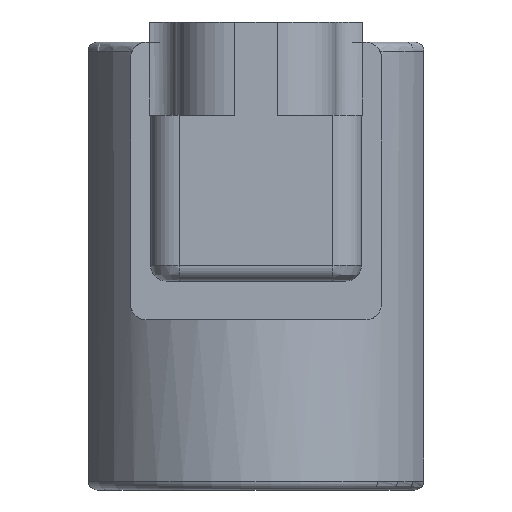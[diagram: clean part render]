
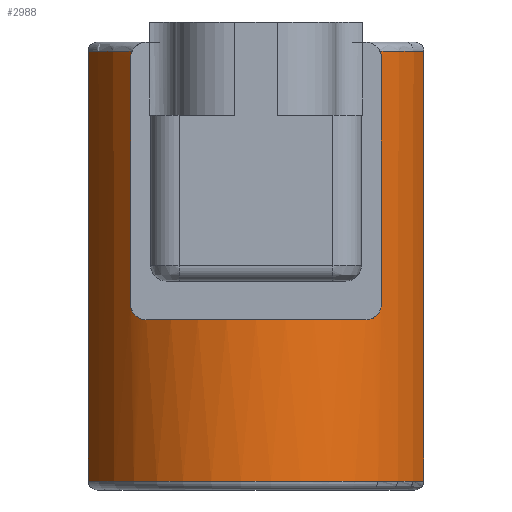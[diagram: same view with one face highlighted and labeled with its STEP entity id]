
A CAD part, left-side view. The second image highlights one B-rep face of the part: STEP entity #2988.
In plain terms, the highlighted cylindrical face has radius 19.5 mm (diameter 39 mm), a partial arc.
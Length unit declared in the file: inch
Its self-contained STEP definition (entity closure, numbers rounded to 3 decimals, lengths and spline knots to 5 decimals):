
#2466=CARTESIAN_POINT('',(6.02444,4.89767,-1.69165));
#2467=VERTEX_POINT('',#2466);
#2479=CARTESIAN_POINT('',(6.03121,4.90431,-1.72118));
#2480=VERTEX_POINT('',#2479);
#2481=CARTESIAN_POINT('',(6.03121,4.90431,-1.72118));
#2482=CARTESIAN_POINT('',(6.03121,4.90431,-1.71685));
#2483=CARTESIAN_POINT('',(6.03078,4.9039,-1.71246));
#2484=CARTESIAN_POINT('',(6.02908,4.90225,-1.70387));
#2485=CARTESIAN_POINT('',(6.02782,4.90101,-1.69968));
#2486=CARTESIAN_POINT('',(6.02567,4.89889,-1.69434));
#2487=CARTESIAN_POINT('',(6.02507,4.8983,-1.69298));
#2488=CARTESIAN_POINT('',(6.02444,4.89767,-1.69165));
#2489=B_SPLINE_CURVE_WITH_KNOTS('',3,(#2481,#2482,#2483,#2484,#2485,#2486,#2487,#2488),.UNSPECIFIED.,.F.,.U.,(4,2,2,4),(0.0,0.33006,0.66013,0.77574),.UNSPECIFIED.);
#2490=EDGE_CURVE('',#2480,#2467,#2489,.T.);
#2533=CARTESIAN_POINT('',(6.35474,5.09132,-1.69165));
#2534=VERTEX_POINT('',#2533);
#2552=CARTESIAN_POINT('',(6.56561,4.35313,-1.69165));
#2553=DIRECTION('',(0.0,0.0,1.0));
#2554=DIRECTION('',(-1.0,0.0,0.0));
#2555=AXIS2_PLACEMENT_3D('',#2552,#2553,#2554);
#2556=CIRCLE('',#2555,0.76772);
#2557=EDGE_CURVE('',#2534,#2467,#2556,.T.);
#2586=CARTESIAN_POINT('',(6.03121,3.80195,-1.72118));
#2587=VERTEX_POINT('',#2586);
#2594=CARTESIAN_POINT('',(6.02444,3.8086,-1.69165));
#2595=VERTEX_POINT('',#2594);
#2596=CARTESIAN_POINT('',(6.02444,3.8086,-1.69165));
#2597=CARTESIAN_POINT('',(6.02507,3.80797,-1.69298));
#2598=CARTESIAN_POINT('',(6.02567,3.80738,-1.69434));
#2599=CARTESIAN_POINT('',(6.02782,3.80526,-1.69968));
#2600=CARTESIAN_POINT('',(6.02908,3.80402,-1.70387));
#2601=CARTESIAN_POINT('',(6.03078,3.80237,-1.71246));
#2602=CARTESIAN_POINT('',(6.03121,3.80195,-1.71685));
#2603=CARTESIAN_POINT('',(6.03121,3.80195,-1.72118));
#2604=B_SPLINE_CURVE_WITH_KNOTS('',3,(#2596,#2597,#2598,#2599,#2600,#2601,#2602,#2603),.UNSPECIFIED.,.F.,.U.,(4,2,2,4),(-0.77574,-0.66013,-0.33006,0.0),.UNSPECIFIED.);
#2605=EDGE_CURVE('',#2595,#2587,#2604,.T.);
#2814=CARTESIAN_POINT('',(6.03121,3.80195,-2.80386));
#2815=VERTEX_POINT('',#2814);
#2816=CARTESIAN_POINT('',(6.03121,3.80195,-1.72118));
#2817=DIRECTION('',(0.0,0.0,-1.0));
#2818=VECTOR('',#2817,1.08268);
#2819=LINE('',#2816,#2818);
#2820=EDGE_CURVE('',#2587,#2815,#2819,.T.);
#2838=CARTESIAN_POINT('',(5.96829,3.87085,-2.87276));
#2839=VERTEX_POINT('',#2838);
#2840=CARTESIAN_POINT('',(6.03121,3.80195,-2.80386));
#2841=CARTESIAN_POINT('',(6.03121,3.80195,-2.80819));
#2842=CARTESIAN_POINT('',(6.03078,3.80237,-2.81258));
#2843=CARTESIAN_POINT('',(6.02908,3.80402,-2.82117));
#2844=CARTESIAN_POINT('',(6.02782,3.80526,-2.82536));
#2845=CARTESIAN_POINT('',(6.02304,3.80997,-2.83723));
#2846=CARTESIAN_POINT('',(6.0185,3.81452,-2.84419));
#2847=CARTESIAN_POINT('',(6.00746,3.82593,-2.85703));
#2848=CARTESIAN_POINT('',(5.99976,3.83415,-2.86298));
#2849=CARTESIAN_POINT('',(5.98387,3.85203,-2.87085));
#2850=CARTESIAN_POINT('',(5.97568,3.8617,-2.87276));
#2851=CARTESIAN_POINT('',(5.96829,3.87085,-2.87276));
#2852=B_SPLINE_CURVE_WITH_KNOTS('',3,(#2840,#2841,#2842,#2843,#2844,#2845,#2846,#2847,#2848,#2849,#2850,#2851),.UNSPECIFIED.,.F.,.U.,(4,2,2,2,2,4),(0.0,0.33006,0.66013,1.32026,2.21635,3.11244),.UNSPECIFIED.);
#2853=EDGE_CURVE('',#2815,#2839,#2852,.T.);
#2871=CARTESIAN_POINT('',(5.96829,4.83542,-2.87276));
#2872=VERTEX_POINT('',#2871);
#2873=CARTESIAN_POINT('',(6.56561,4.35313,-2.87276));
#2874=DIRECTION('',(0.0,0.0,-1.0));
#2875=DIRECTION('',(-1.0,0.0,0.0));
#2876=AXIS2_PLACEMENT_3D('',#2873,#2874,#2875);
#2877=CIRCLE('',#2876,0.76772);
#2878=EDGE_CURVE('',#2839,#2872,#2877,.T.);
#2896=CARTESIAN_POINT('',(6.03121,4.90431,-2.80386));
#2897=VERTEX_POINT('',#2896);
#2898=CARTESIAN_POINT('',(5.96829,4.83542,-2.87276));
#2899=CARTESIAN_POINT('',(5.97568,4.84457,-2.87276));
#2900=CARTESIAN_POINT('',(5.98387,4.85424,-2.87085));
#2901=CARTESIAN_POINT('',(5.99976,4.87212,-2.86298));
#2902=CARTESIAN_POINT('',(6.00746,4.88033,-2.85703));
#2903=CARTESIAN_POINT('',(6.0185,4.89175,-2.84419));
#2904=CARTESIAN_POINT('',(6.02304,4.89629,-2.83723));
#2905=CARTESIAN_POINT('',(6.02782,4.90101,-2.82536));
#2906=CARTESIAN_POINT('',(6.02908,4.90225,-2.82117));
#2907=CARTESIAN_POINT('',(6.03078,4.9039,-2.81258));
#2908=CARTESIAN_POINT('',(6.03121,4.90431,-2.80819));
#2909=CARTESIAN_POINT('',(6.03121,4.90431,-2.80386));
#2910=B_SPLINE_CURVE_WITH_KNOTS('',3,(#2898,#2899,#2900,#2901,#2902,#2903,#2904,#2905,#2906,#2907,#2908,#2909),.UNSPECIFIED.,.F.,.U.,(4,2,2,2,2,4),(-3.11244,-2.21635,-1.32026,-0.66013,-0.33006,0.0),.UNSPECIFIED.);
#2911=EDGE_CURVE('',#2872,#2897,#2910,.T.);
#2929=CARTESIAN_POINT('',(6.03121,4.90431,-2.80386));
#2930=DIRECTION('',(0.0,0.0,1.0));
#2931=VECTOR('',#2930,1.08268);
#2932=LINE('',#2929,#2931);
#2933=EDGE_CURVE('',#2897,#2480,#2932,.T.);
#2941=CARTESIAN_POINT('',(6.56561,4.35313,-1.65228));
#2942=DIRECTION('',(0.0,0.0,-1.0));
#2943=DIRECTION('',(-1.0,0.0,0.0));
#2944=AXIS2_PLACEMENT_3D('',#2941,#2942,#2943);
#2945=CYLINDRICAL_SURFACE('',#2944,0.76772);
#2946=ORIENTED_EDGE('',*,*,#2605,.T.);
#2947=ORIENTED_EDGE('',*,*,#2820,.T.);
#2948=ORIENTED_EDGE('',*,*,#2853,.T.);
#2949=ORIENTED_EDGE('',*,*,#2878,.T.);
#2950=ORIENTED_EDGE('',*,*,#2911,.T.);
#2951=ORIENTED_EDGE('',*,*,#2933,.T.);
#2952=ORIENTED_EDGE('',*,*,#2490,.T.);
#2953=ORIENTED_EDGE('',*,*,#2557,.F.);
#2954=CARTESIAN_POINT('',(6.35474,5.09132,-3.58142));
#2955=VERTEX_POINT('',#2954);
#2956=CARTESIAN_POINT('',(6.35474,5.09132,-1.69165));
#2957=DIRECTION('',(0.0,0.0,-1.0));
#2958=VECTOR('',#2957,1.88976);
#2959=LINE('',#2956,#2958);
#2960=EDGE_CURVE('',#2534,#2955,#2959,.T.);
#2961=ORIENTED_EDGE('',*,*,#2960,.T.);
#2962=CARTESIAN_POINT('',(6.35474,3.61494,-3.58142));
#2963=VERTEX_POINT('',#2962);
#2964=CARTESIAN_POINT('',(6.56561,4.35313,-3.58142));
#2965=DIRECTION('',(0.0,0.0,-1.0));
#2966=DIRECTION('',(-1.0,0.0,0.0));
#2967=AXIS2_PLACEMENT_3D('',#2964,#2965,#2966);
#2968=CIRCLE('',#2967,0.76772);
#2969=EDGE_CURVE('',#2963,#2955,#2968,.T.);
#2970=ORIENTED_EDGE('',*,*,#2969,.F.);
#2971=CARTESIAN_POINT('',(6.35474,3.61494,-1.69165));
#2972=VERTEX_POINT('',#2971);
#2973=CARTESIAN_POINT('',(6.35474,3.61494,-1.69165));
#2974=DIRECTION('',(0.0,0.0,-1.0));
#2975=VECTOR('',#2974,1.88976);
#2976=LINE('',#2973,#2975);
#2977=EDGE_CURVE('',#2972,#2963,#2976,.T.);
#2978=ORIENTED_EDGE('',*,*,#2977,.F.);
#2979=CARTESIAN_POINT('',(6.56561,4.35313,-1.69165));
#2980=DIRECTION('',(0.0,0.0,1.0));
#2981=DIRECTION('',(-1.0,0.0,0.0));
#2982=AXIS2_PLACEMENT_3D('',#2979,#2980,#2981);
#2983=CIRCLE('',#2982,0.76772);
#2984=EDGE_CURVE('',#2595,#2972,#2983,.T.);
#2985=ORIENTED_EDGE('',*,*,#2984,.F.);
#2986=EDGE_LOOP('',(#2946,#2947,#2948,#2949,#2950,#2951,#2952,#2953,#2961,#2970,#2978,#2985));
#2987=FACE_OUTER_BOUND('',#2986,.T.);
#2988=ADVANCED_FACE('',(#2987),#2945,.T.);
